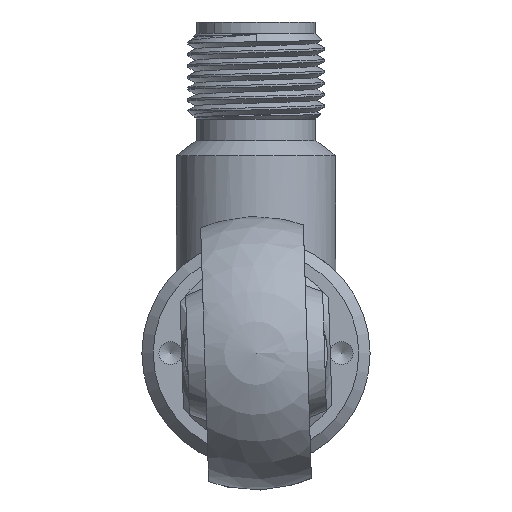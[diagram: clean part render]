
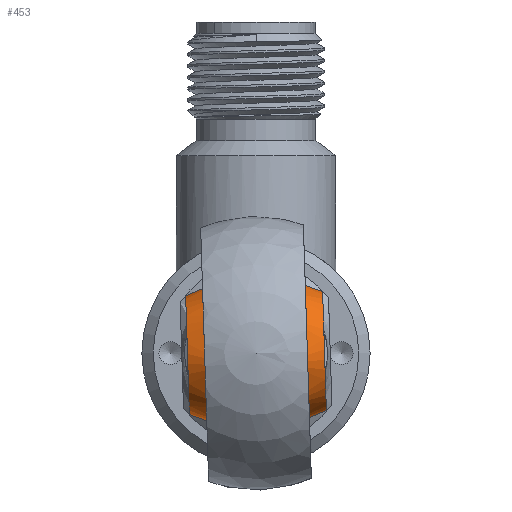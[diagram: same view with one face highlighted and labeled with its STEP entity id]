
A CAD part, left-side view. The second image highlights one B-rep face of the part: STEP entity #453.
In plain terms, the highlighted free-form (B-spline) face has degree [3, 3] with [4, 7] control points.
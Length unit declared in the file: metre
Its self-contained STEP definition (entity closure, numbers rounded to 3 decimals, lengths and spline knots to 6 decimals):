
#453 = ADVANCED_FACE( '', ( #914, #915 ), #916, .T. );
#914 = FACE_OUTER_BOUND( '', #3284, .T. );
#915 = FACE_OUTER_BOUND( '', #3285, .T. );
#916 = ( B_SPLINE_SURFACE( 3, 3, ( ( #3287, #3288, #3289, #3290, #3291, #3292, #3293 ), ( #3294, #3295, #3296, #3297, #3298, #3299, #3300 ), ( #3301, #3302, #3303, #3304, #3305, #3306, #3307 ), ( #3308, #3309, #3310, #3311, #3312, #3313, #3314 ) ), .UNSPECIFIED., .F., .T., .F. )B_SPLINE_SURFACE_WITH_KNOTS( ( 4, 4 ), ( 4, 3, 4 ), ( 0., 6.283185 ), ( -0.582914, 0., 0.582914 ), .UNSPECIFIED. )RATIONAL_B_SPLINE_SURFACE( ( ( 1., 0.333, 0.333, 1., 0.333, 0.333, 1. ), ( 0.89, 0.297, 0.297, 0.89, 0.297, 0.297, 0.89 ), ( 0.89, 0.297, 0.297, 0.89, 0.297, 0.297, 0.89 ), ( 1., 0.333, 0.333, 1., 0.333, 0.333, 1. ) ) )BOUNDED_SURFACE(  )REPRESENTATION_ITEM( '' )GEOMETRIC_REPRESENTATION_ITEM(  )SURFACE(  ) );
#3284 = EDGE_LOOP( '', ( #4841 ) );
#3285 = EDGE_LOOP( '', ( #4842 ) );
#3287 = CARTESIAN_POINT( '', ( -0.144857, 0.006021, 0.00058 ) );
#3288 = CARTESIAN_POINT( '', ( -0.143318, 0.005697, -0.0097 ) );
#3289 = CARTESIAN_POINT( '', ( -0.153603, 0.005648, -0.011239 ) );
#3290 = CARTESIAN_POINT( '', ( -0.155143, 0.005973, -0.000959 ) );
#3291 = CARTESIAN_POINT( '', ( -0.156682, 0.006297, 0.009322 ) );
#3292 = CARTESIAN_POINT( '', ( -0.146397, 0.006346, 0.01086 ) );
#3293 = CARTESIAN_POINT( '', ( -0.144857, 0.006021, 0.00058 ) );
#3294 = CARTESIAN_POINT( '', ( -0.14241, 0.002282, 0.001065 ) );
#3295 = CARTESIAN_POINT( '', ( -0.140138, 0.001803, -0.014107 ) );
#3296 = CARTESIAN_POINT( '', ( -0.155318, 0.001732, -0.016378 ) );
#3297 = CARTESIAN_POINT( '', ( -0.15759, 0.00221, -0.001206 ) );
#3298 = CARTESIAN_POINT( '', ( -0.159862, 0.002689, 0.013965 ) );
#3299 = CARTESIAN_POINT( '', ( -0.144682, 0.002761, 0.016236 ) );
#3300 = CARTESIAN_POINT( '', ( -0.14241, 0.002282, 0.001065 ) );
#3301 = CARTESIAN_POINT( '', ( -0.14241, -0.00221, 0.001206 ) );
#3302 = CARTESIAN_POINT( '', ( -0.140138, -0.002689, -0.013965 ) );
#3303 = CARTESIAN_POINT( '', ( -0.155318, -0.002761, -0.016236 ) );
#3304 = CARTESIAN_POINT( '', ( -0.15759, -0.002282, -0.001065 ) );
#3305 = CARTESIAN_POINT( '', ( -0.159862, -0.001803, 0.014107 ) );
#3306 = CARTESIAN_POINT( '', ( -0.144682, -0.001732, 0.016378 ) );
#3307 = CARTESIAN_POINT( '', ( -0.14241, -0.00221, 0.001206 ) );
#3308 = CARTESIAN_POINT( '', ( -0.144857, -0.005973, 0.000959 ) );
#3309 = CARTESIAN_POINT( '', ( -0.143318, -0.006297, -0.009322 ) );
#3310 = CARTESIAN_POINT( '', ( -0.153603, -0.006346, -0.01086 ) );
#3311 = CARTESIAN_POINT( '', ( -0.155143, -0.006021, -0.00058 ) );
#3312 = CARTESIAN_POINT( '', ( -0.156682, -0.005697, 0.0097 ) );
#3313 = CARTESIAN_POINT( '', ( -0.146397, -0.005648, 0.011239 ) );
#3314 = CARTESIAN_POINT( '', ( -0.144857, -0.005973, 0.000959 ) );
#4841 = ORIENTED_EDGE( '', *, *, #5319, .F. );
#4842 = ORIENTED_EDGE( '', *, *, #5479, .T. );
#5319 = EDGE_CURVE( '', #6168, #6168, #6169, .T. );
#5479 = EDGE_CURVE( '', #6453, #6453, #6454, .T. );
#6168 = VERTEX_POINT( '', #13144 );
#6169 = CIRCLE( '', #13145, 0.0052 );
#6453 = VERTEX_POINT( '', #14685 );
#6454 = CIRCLE( '', #14686, 0.0052 );
#13144 = CARTESIAN_POINT( '', ( -0.144857, 0.006021, 0.00058 ) );
#13145 = AXIS2_PLACEMENT_3D( '', #16065, #16066, #16067 );
#14685 = CARTESIAN_POINT( '', ( -0.144857, -0.005973, 0.000959 ) );
#14686 = AXIS2_PLACEMENT_3D( '', #16282, #16283, #16284 );
#16065 = CARTESIAN_POINT( '', ( -0.15, 0.005997, -0.000189 ) );
#16066 = DIRECTION( '', ( 0., 1., -0.032 ) );
#16067 = DIRECTION( '', ( 0.989, 0.005, 0.148 ) );
#16282 = CARTESIAN_POINT( '', ( -0.15, -0.005997, 0.000189 ) );
#16283 = DIRECTION( '', ( 0., 1., -0.032 ) );
#16284 = DIRECTION( '', ( 0.989, 0.005, 0.148 ) );
